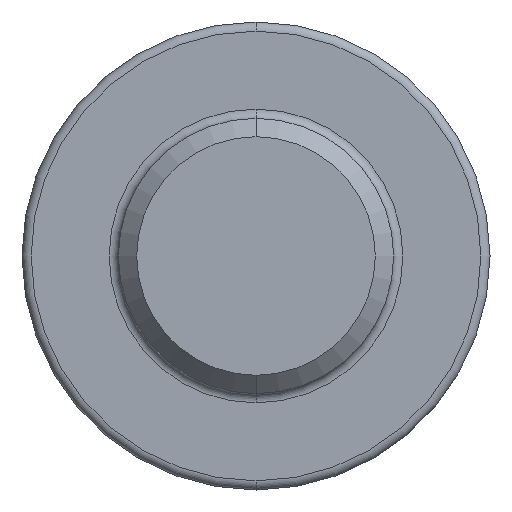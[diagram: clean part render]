
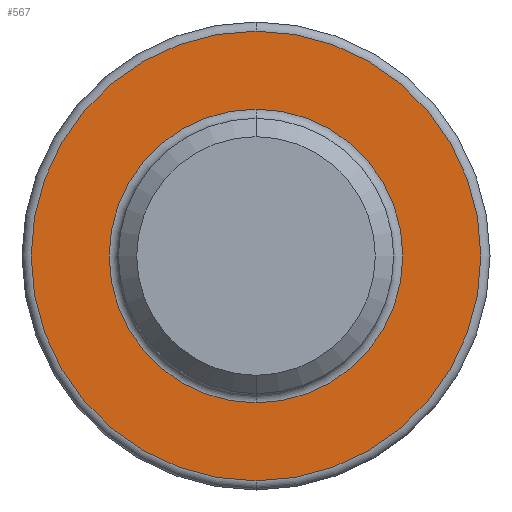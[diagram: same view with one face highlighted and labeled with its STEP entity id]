
A CAD part, front view. The second image highlights one B-rep face of the part: STEP entity #567.
In plain terms, the highlighted planar face has unit normal (0, -1, 0).
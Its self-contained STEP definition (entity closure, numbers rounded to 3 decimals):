
#1 = CARTESIAN_POINT ( 'NONE',  ( 0., -3.2, -3.2 ) ) ;
#18 = FACE_OUTER_BOUND ( 'NONE', #536, .T. ) ;
#25 = CIRCLE ( 'NONE', #318, 3.2 ) ;
#35 = PLANE ( 'NONE',  #48 ) ;
#48 = AXIS2_PLACEMENT_3D ( 'NONE', #535, #809, #743 ) ;
#52 = CARTESIAN_POINT ( 'NONE',  ( 0., -3.2, 0. ) ) ;
#73 = CIRCLE ( 'NONE', #361, 4.9 ) ;
#88 = DIRECTION ( 'NONE',  ( 0., -1., 0. ) ) ;
#102 = VERTEX_POINT ( 'NONE', #1 ) ;
#142 = CIRCLE ( 'NONE', #779, 4.9 ) ;
#149 = ORIENTED_EDGE ( 'NONE', *, *, #742, .T. ) ;
#175 = CARTESIAN_POINT ( 'NONE',  ( 0., -3.2, 3.2 ) ) ;
#192 = ORIENTED_EDGE ( 'NONE', *, *, #554, .T. ) ;
#196 = VERTEX_POINT ( 'NONE', #473 ) ;
#317 = DIRECTION ( 'NONE',  ( 0., 0., 1. ) ) ;
#318 = AXIS2_PLACEMENT_3D ( 'NONE', #667, #593, #864 ) ;
#361 = AXIS2_PLACEMENT_3D ( 'NONE', #553, #88, #470 ) ;
#392 = DIRECTION ( 'NONE',  ( 0., 0., 1. ) ) ;
#470 = DIRECTION ( 'NONE',  ( 0., 0., 1. ) ) ;
#473 = CARTESIAN_POINT ( 'NONE',  ( 0., -3.2, 4.9 ) ) ;
#528 = ORIENTED_EDGE ( 'NONE', *, *, #720, .T. ) ;
#532 = VERTEX_POINT ( 'NONE', #812 ) ;
#535 = CARTESIAN_POINT ( 'NONE',  ( 3., -3.2, 0. ) ) ;
#536 = EDGE_LOOP ( 'NONE', ( #149, #192 ) ) ;
#547 = FACE_BOUND ( 'NONE', #668, .T. ) ;
#553 = CARTESIAN_POINT ( 'NONE',  ( 0., -3.2, 0. ) ) ;
#554 = EDGE_CURVE ( 'NONE', #532, #196, #73, .T. ) ;
#567 = ADVANCED_FACE ( 'NONE', ( #547, #18 ), #35, .F. ) ;
#588 = DIRECTION ( 'NONE',  ( 0., 1., 0. ) ) ;
#593 = DIRECTION ( 'NONE',  ( 0., 1., 0. ) ) ;
#631 = VERTEX_POINT ( 'NONE', #175 ) ;
#667 = CARTESIAN_POINT ( 'NONE',  ( 0., -3.2, 0. ) ) ;
#668 = EDGE_LOOP ( 'NONE', ( #528, #829 ) ) ;
#702 = CIRCLE ( 'NONE', #817, 3.2 ) ;
#720 = EDGE_CURVE ( 'NONE', #631, #102, #702, .T. ) ;
#724 = DIRECTION ( 'NONE',  ( 0., -1., 0. ) ) ;
#742 = EDGE_CURVE ( 'NONE', #196, #532, #142, .T. ) ;
#743 = DIRECTION ( 'NONE',  ( 0., 0., 1. ) ) ;
#779 = AXIS2_PLACEMENT_3D ( 'NONE', #52, #724, #317 ) ;
#793 = CARTESIAN_POINT ( 'NONE',  ( 0., -3.2, 0. ) ) ;
#807 = EDGE_CURVE ( 'NONE', #102, #631, #25, .T. ) ;
#809 = DIRECTION ( 'NONE',  ( 0., 1., 0. ) ) ;
#812 = CARTESIAN_POINT ( 'NONE',  ( 0., -3.2, -4.9 ) ) ;
#817 = AXIS2_PLACEMENT_3D ( 'NONE', #793, #588, #392 ) ;
#829 = ORIENTED_EDGE ( 'NONE', *, *, #807, .T. ) ;
#864 = DIRECTION ( 'NONE',  ( 0., 0., 1. ) ) ;
